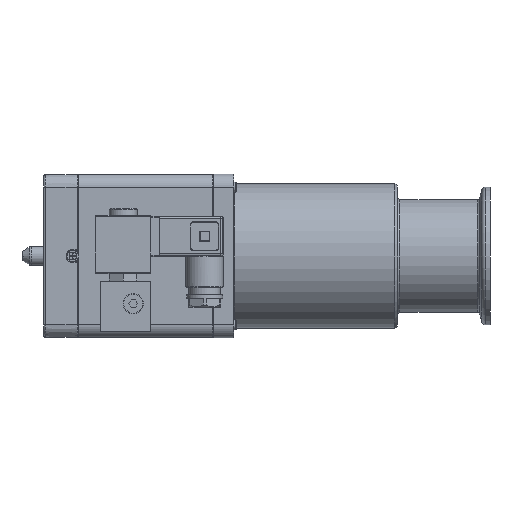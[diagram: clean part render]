
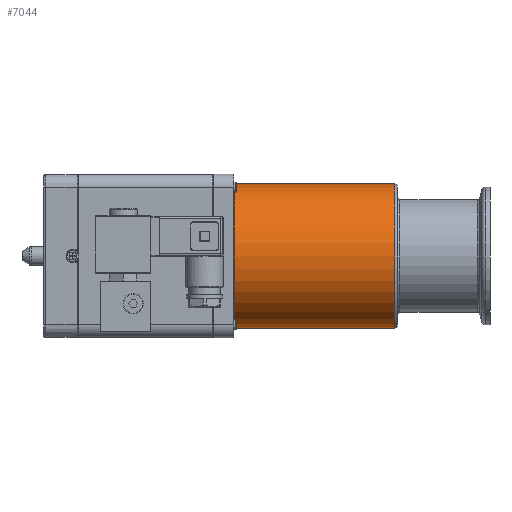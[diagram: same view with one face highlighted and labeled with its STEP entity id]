
A CAD part, left-side view. The second image highlights one B-rep face of the part: STEP entity #7044.
In plain terms, the highlighted cylindrical face has radius 28.95 mm (diameter 57.9 mm), a full revolution.
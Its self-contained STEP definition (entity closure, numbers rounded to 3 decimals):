
#2156=B_SPLINE_CURVE_WITH_KNOTS('',3,(#22251,#22252,#22253,#22254,#22255,
#22256,#22257,#22258,#22259,#22260,#22261,#22262,#22263,#22264,#22265,#22266,
#22267,#22268,#22269,#22270,#22271,#22272,#22273,#22274,#22275,#22276,#22277,
#22278,#22279,#22280,#22281,#22282,#22283,#22284),.UNSPECIFIED.,.T.,.F.,
(2,2,2,2,2,2,2,2,2,2,2,2,2,2,2,2,2,2,2),(-0.062,0.,0.063,
0.125,0.188,0.25,0.313,0.375,0.438,
0.5,0.563,0.625,0.688,
0.75,0.813,0.875,0.938,1.,1.063),.UNSPECIFIED.);
#6218=CYLINDRICAL_SURFACE('',#17038,28.95);
#6465=FACE_BOUND('',#8879,.T.);
#6466=FACE_BOUND('',#8880,.T.);
#6467=FACE_BOUND('',#8881,.T.);
#7044=ADVANCED_FACE('',(#6465,#6466,#6467),#6218,.T.);
#8879=EDGE_LOOP('',(#10053));
#8880=EDGE_LOOP('',(#10054));
#8881=EDGE_LOOP('',(#10055));
#10053=ORIENTED_EDGE('',*,*,#14739,.T.);
#10054=ORIENTED_EDGE('',*,*,#14740,.T.);
#10055=ORIENTED_EDGE('',*,*,#14741,.T.);
#13471=VERTEX_POINT('',#22248);
#13472=VERTEX_POINT('',#22250);
#13473=VERTEX_POINT('',#22285);
#14739=EDGE_CURVE('',#13471,#13471,#16454,.T.);
#14740=EDGE_CURVE('',#13472,#13472,#16455,.T.);
#14741=EDGE_CURVE('',#13473,#13473,#2156,.T.);
#16454=CIRCLE('',#17036,28.95);
#16455=CIRCLE('',#17037,28.95);
#17036=AXIS2_PLACEMENT_3D('',#22247,#18483,#18484);
#17037=AXIS2_PLACEMENT_3D('',#22249,#18485,#18486);
#17038=AXIS2_PLACEMENT_3D('',#22286,#18487,#18488);
#18483=DIRECTION('',(1.,0.,0.));
#18484=DIRECTION('',(0.,0.,-1.));
#18485=DIRECTION('',(-1.,0.,0.));
#18486=DIRECTION('',(0.,0.,1.));
#18487=DIRECTION('',(-1.,0.,0.));
#18488=DIRECTION('',(0.,0.,1.));
#22247=CARTESIAN_POINT('',(38.,0.,0.));
#22248=CARTESIAN_POINT('',(38.,0.,-28.95));
#22249=CARTESIAN_POINT('',(102.,0.,0.));
#22250=CARTESIAN_POINT('',(102.,0.,28.95));
#22251=CARTESIAN_POINT('',(62.251,20.931,-20.));
#22252=CARTESIAN_POINT('',(67.749,20.931,-20.));
#22253=CARTESIAN_POINT('',(70.403,21.502,-19.429));
#22254=CARTESIAN_POINT('',(75.162,23.16,-17.419));
#22255=CARTESIAN_POINT('',(77.283,24.223,-15.984));
#22256=CARTESIAN_POINT('',(80.867,26.223,-12.433));
#22257=CARTESIAN_POINT('',(82.339,27.168,-10.307));
#22258=CARTESIAN_POINT('',(84.409,28.534,-5.493));
#22259=CARTESIAN_POINT('',(84.993,28.945,-2.776));
#22260=CARTESIAN_POINT('',(85.007,28.955,2.679));
#22261=CARTESIAN_POINT('',(84.44,28.556,5.383));
#22262=CARTESIAN_POINT('',(82.389,27.201,10.224));
#22263=CARTESIAN_POINT('',(80.917,26.253,12.374));
#22264=CARTESIAN_POINT('',(77.316,24.24,15.961));
#22265=CARTESIAN_POINT('',(75.229,23.188,17.383));
#22266=CARTESIAN_POINT('',(70.435,21.508,19.423));
#22267=CARTESIAN_POINT('',(67.745,20.937,19.994));
#22268=CARTESIAN_POINT('',(62.345,20.925,20.006));
#22269=CARTESIAN_POINT('',(59.633,21.491,19.442));
#22270=CARTESIAN_POINT('',(54.831,23.161,17.418));
#22271=CARTESIAN_POINT('',(52.729,24.217,15.994));
#22272=CARTESIAN_POINT('',(49.135,26.222,12.438));
#22273=CARTESIAN_POINT('',(47.654,27.173,10.296));
#22274=CARTESIAN_POINT('',(45.584,28.539,5.47));
#22275=CARTESIAN_POINT('',(45.006,28.946,2.756));
#22276=CARTESIAN_POINT('',(44.994,28.954,-2.662));
#22277=CARTESIAN_POINT('',(45.558,28.557,-5.386));
#22278=CARTESIAN_POINT('',(47.631,27.188,-10.263));
#22279=CARTESIAN_POINT('',(49.113,26.235,-12.409));
#22280=CARTESIAN_POINT('',(52.694,24.235,-15.967));
#22281=CARTESIAN_POINT('',(54.825,23.168,-17.409));
#22282=CARTESIAN_POINT('',(59.552,21.514,-19.414));
#22283=CARTESIAN_POINT('',(62.251,20.931,-20.));
#22284=CARTESIAN_POINT('',(67.749,20.931,-20.));
#22285=CARTESIAN_POINT('',(65.,20.931,-20.));
#22286=CARTESIAN_POINT('',(0.,0.,0.));
